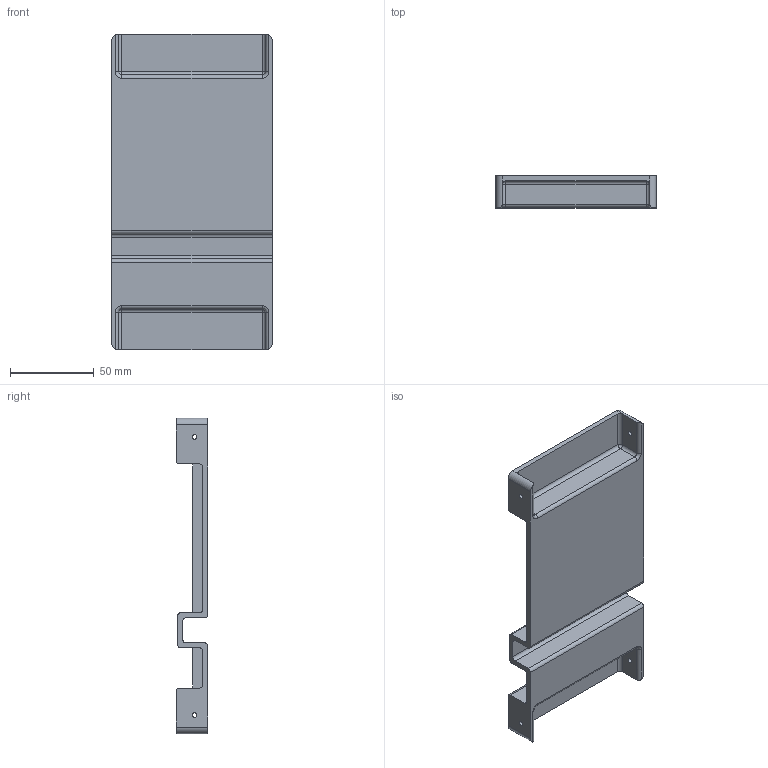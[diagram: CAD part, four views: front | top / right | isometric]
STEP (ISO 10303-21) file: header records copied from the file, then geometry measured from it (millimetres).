
FILE_DESCRIPTION(/* description */ ('STEP AP242 Edition 2','CAx-IF Rec.Pracs.---Representation and Presentation of Product Manufacturing Information (PMI)---4.0---2014-10-13','CAx-IF Rec.Pracs.---3D Tessellated Geometry---0.4---2014-09-14','2;1','CAx-IF Rec.Pracs.---User Defined Attributes---1.5---2016-08-15'),/* implementation_level */ '2;1');
FILE_NAME(/* name */ 'Tarok - Total Assemply - RPI and CAN holder lid v2',/* time_stamp */ '2026-05-23T09:34:08Z',/* author */ (''),/* organization */ (''),/* preprocessor_version */ 'ST-DEVELOPER v20',/* originating_system */ 'ONSHAPE BY PTC INC, 1.215',/* authorisation */ ' ');
FILE_SCHEMA (('AP242_MANAGED_MODEL_BASED_3D_ENGINEERING_MIM_LF { 1 0 10303 442 3 1 4 }'));
Length unit declared in the file: metre
Products named in the file (1): RPI and CAN holder lid v2
Bounding box: 96 x 19 x 188.8 mm (x, y, z)
Volume: 79515.7 mm3; surface area: 53091.3 mm2
Topology: 1 solids, 1 shells, 82 faces, 220 edges, 136 vertices
Faces by surface type: cylinder 40, plane 34, sphere 4, torus 4
Full cylindrical faces by diameter (mm): 2.8 x4
Entity records: 2554 total; most frequent: DIRECTION 454, CARTESIAN_POINT 447, ORIENTED_EDGE 424, EDGE_CURVE 212, AXIS2_PLACEMENT_3D 163, VERTEX_POINT 136, LINE 128, VECTOR 128
